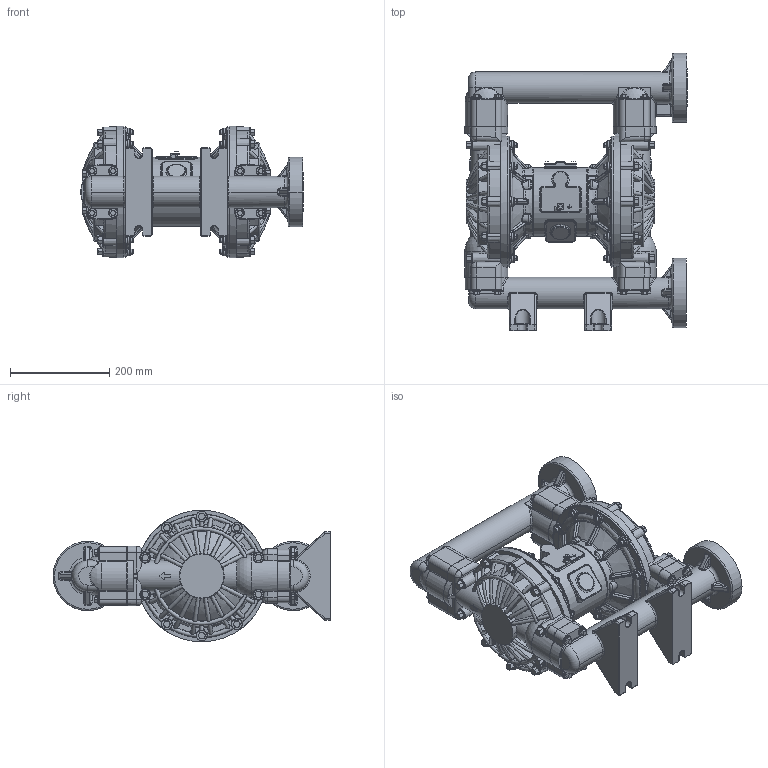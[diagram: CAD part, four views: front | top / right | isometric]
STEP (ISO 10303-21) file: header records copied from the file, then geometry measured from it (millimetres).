
FILE_DESCRIPTION((''),'2;1');
FILE_NAME('24B758-EN-E_PRT','2022-02-14T11:40:09',('qtmwp1'),(''),'CREO PARAMETRIC BY PTC INC, 2021072','CREO PARAMETRIC BY PTC INC, 2021072','');
FILE_SCHEMA(('CONFIG_CONTROL_DESIGN'));
Products named in the file (1): 24B758-EN-E_PRT
Bounding box: 449 x 560.32 x 265.43 mm (x, y, z)
Surface area: 1228514.9 mm2 (no closed solid volume)
Topology: 0 solids, 168 shells, 2771 faces, 8394 edges, 5458 vertices
Faces by surface type: plane 780, cylinder 626, cone 563, bspline 410, torus 303, sphere 89
Entity records: 124590 total; most frequent: CARTESIAN_POINT 57940, ORIENTED_EDGE 13915, DIRECTION 12476, EDGE_CURVE 8394, VERTEX_POINT 5458, AXIS2_PLACEMENT_3D 5254, B_SPLINE_CURVE_WITH_KNOTS 3533, CIRCLE 2893
